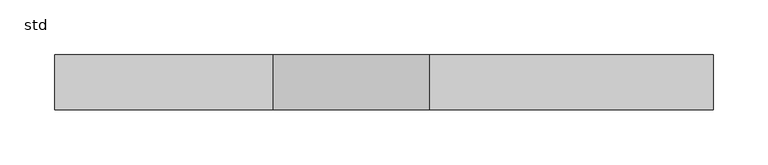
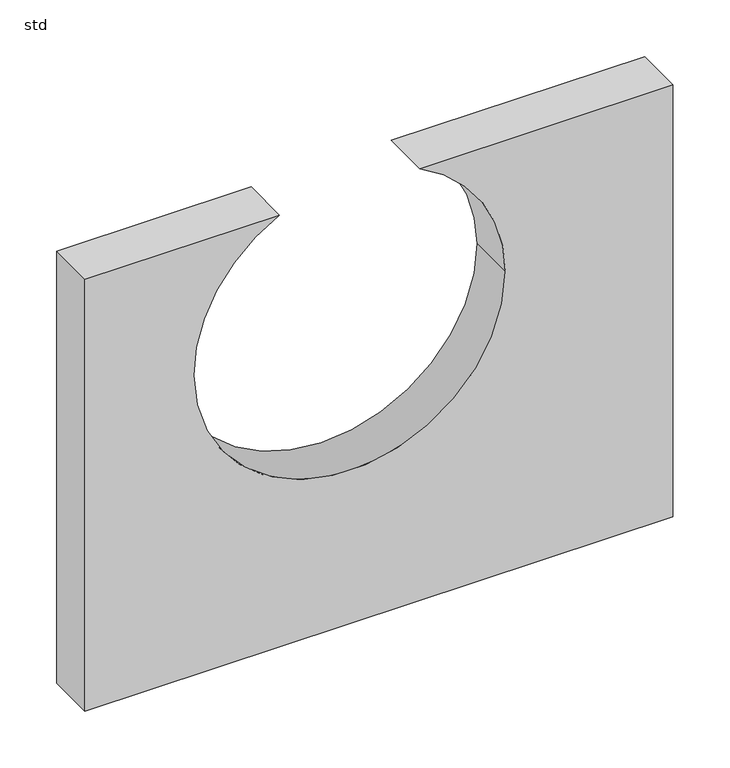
"""IFC4 building model written with IfcOpenShell, lengths in millimetres: unitary equipment geometry, Wavin_MechanicalEquipment_QBicPlusZDoNotUseConnectionPlate : std."""

from ifc_helpers import new_model, si_unit, point, frame, frame_2d, origin, place, context, project, spatial, polyline, circle_curve, trimmed, segment, composite_curve, outline, extrude, source, transform, mapped, element, save


def std_70dcea2e(model_context):
    return source(origin(), model_context, "Body", "SweptSolid", [
        extrude(outline(composite_curve([segment(polyline([(92.0, 0.0), (92.0, 600.0), (558.0, 600.0), (558.0, 341.5332091)]), True, "CONTINUOUS"), segment(trimmed(circle_curve(frame_2d((416.0, 270.0)), 159.0), [point((558.0, 341.5332091))], [point((416.0, 429.0))], True, "CARTESIAN"), True, "CONTINUOUS"), segment(trimmed(circle_curve(frame_2d((416.0, 270.0)), 159.0), [point((416.0, 429.0))], [point((416.0, 111.0))], True, "CARTESIAN"), True, "CONTINUOUS"), segment(trimmed(circle_curve(frame_2d((416.0, 270.0)), 159.0), [point((416.0, 111.0))], [point((558.0, 198.4667909))], True, "CARTESIAN"), True, "CONTINUOUS"), segment(polyline([(558.0, 198.4667909), (558.0, 0.0), (92.0, 0.0)]), True, "CONTINUOUS")], self_intersect=False)), frame((0.0, 0.0, 0.0), z_axis=(0.0, 1.0, 0.0), x_axis=(0.0, 0.0, 1.0)), (0.0, 0.0, 1.0), 50.0),
    ])


if __name__ == "__main__":
    model = new_model("IFC4")
    model_context = context("Model", 3, world=origin())
    ifc_project = project(units=[si_unit("LENGTHUNIT", "METRE", prefix="MILLI")], contexts=[model_context])
    site = spatial("IfcSite", under=ifc_project)
    building = spatial("IfcBuilding", under=site)
    placement = place(None, origin())
    std_shape = std_70dcea2e(model_context)
    element("IfcUnitaryEquipment", 1, ObjectType="Wavin_MechanicalEquipment_QBicPlusZDoNotUseConnectionPlate : std", at=placement, inside=building, context=model_context, shape_type="MappedRepresentation", body=[
        mapped(std_shape, transform((0.0, 0.0, 0.0), x_axis=(1.0, 0.0, 0.0), y_axis=(0.0, 1.0, 0.0), z_axis=(0.0, 0.0, 1.0))),
    ])
    save(model, "model.ifc")
